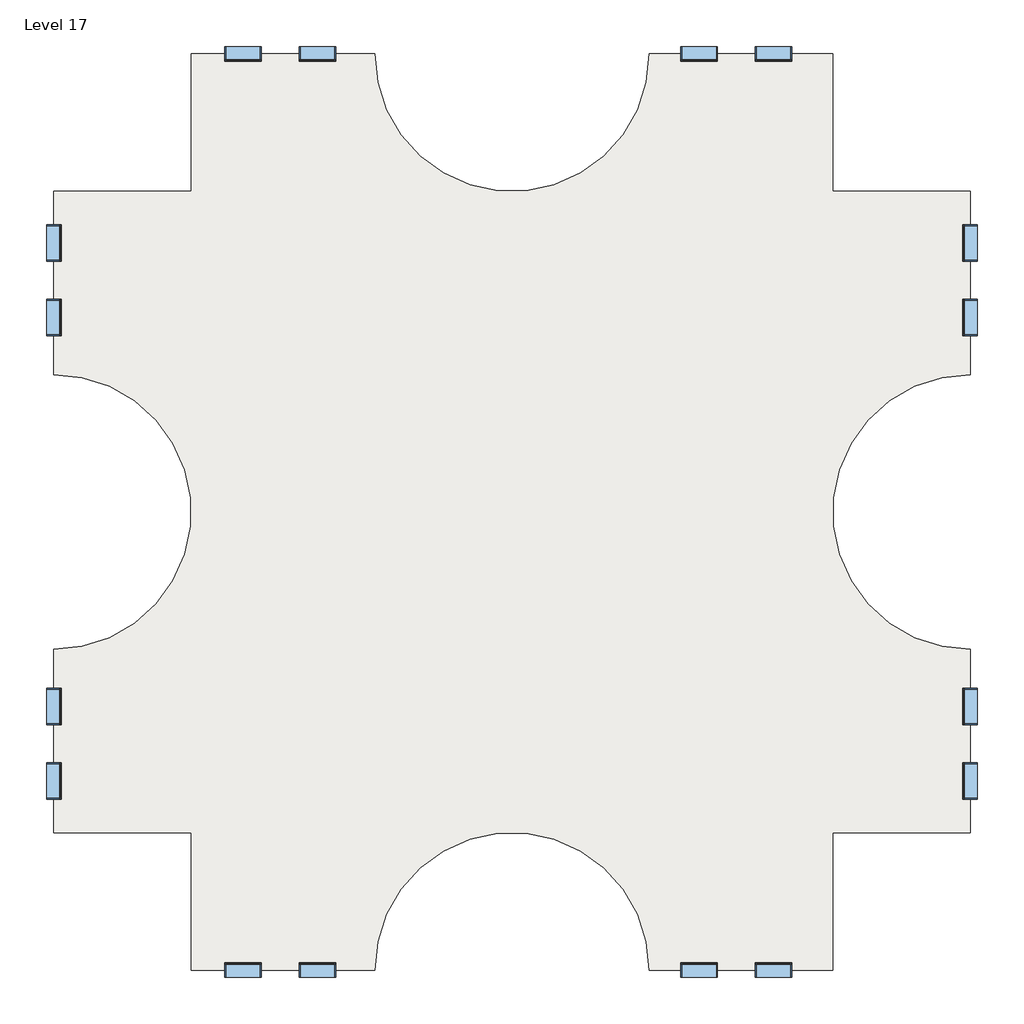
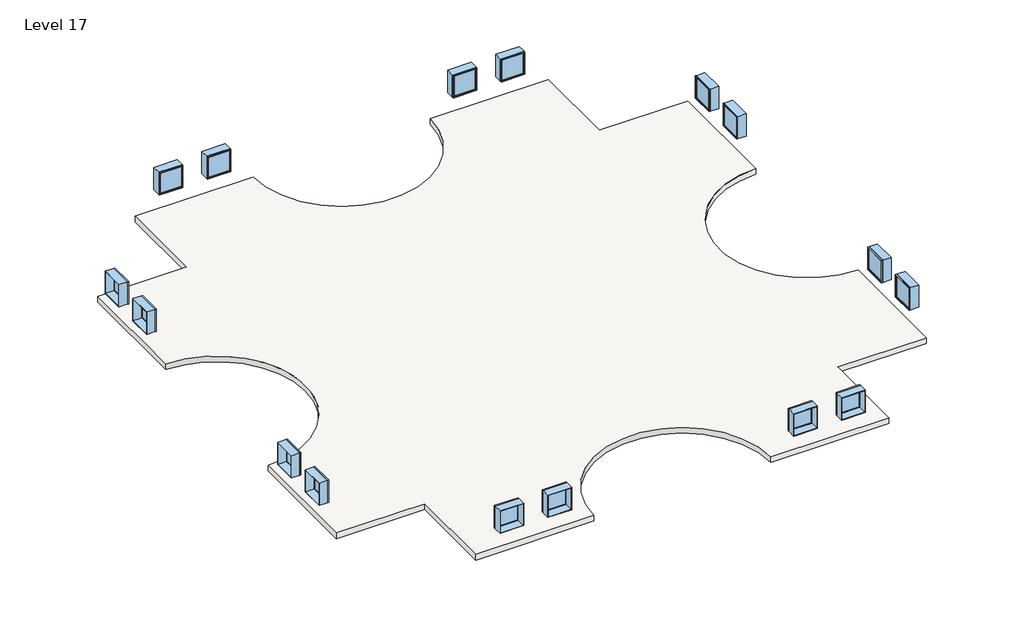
# One storey: 16 windows, 2 slabs.
"""IFC4 building model written with IfcOpenShell, lengths in millimetres."""

import ifcopenshell
import ifcopenshell.guid

model = None  # the IFC model being written
_history = None  # IfcOwnerHistory: only IFC2X3 demands one
_inside = {}  # id of a spatial element -> (the spatial element, [elements in it])
_under = {}  # id of a project, library or spatial element -> (it, [spatial elements below it])
_declared = {}  # id of a project -> (the project, [libraries it declares])
_typed = {}  # id of a type object -> (the type object, [elements of that type])
_made_of = {}  # id of a material, layer set ... -> (it, [elements and type objects made of it])


def new_model(schema):
    """Start an empty IFC model of exactly this schema.

    Asked for "IFC4X3", IfcOpenShell would pick the latest addendum, in which some entities
    have other attributes; the version numbers below select the first issue.
    IFC2X3 requires an IfcOwnerHistory on every rooted entity: one is made here for all.
    """
    global model, _history
    if schema == "IFC4X3":
        model = ifcopenshell.file(schema_version=(4, 3, 0, 0))
    else:
        model = ifcopenshell.file(schema=schema)
    _inside.clear()
    _under.clear()
    _declared.clear()
    _typed.clear()
    _made_of.clear()
    _history = None
    if model.schema == "IFC2X3":
        org = make("IfcOrganization", Name="unknown")
        user = make(
            "IfcPersonAndOrganization",
            ThePerson=make("IfcPerson", FamilyName="unknown"),
            TheOrganization=org,
        )
        app = make(
            "IfcApplication",
            ApplicationDeveloper=org,
            Version="unknown",
            ApplicationFullName="unknown",
            ApplicationIdentifier="unknown",
        )
        _history = make(
            "IfcOwnerHistory",
            OwningUser=user,
            OwningApplication=app,
            ChangeAction="ADDED",
            CreationDate=0,
        )
    return model


def make(cls, **values):
    """One entity of the class cls with the attributes given. An attribute that is None is left unset."""
    return model.create_entity(
        cls, **{name: value for name, value in values.items() if value is not None}
    )


def rooted(cls, **values):
    """An entity with a GlobalId (a new one), such as an element, a storey or a relation."""
    return make(cls, GlobalId=ifcopenshell.guid.new(), OwnerHistory=_history, **values)


def si_unit(unit_type, name, prefix=None):
    """IfcSIUnit, for example si_unit("LENGTHUNIT", "METRE", prefix="MILLI")."""
    return make("IfcSIUnit", UnitType=unit_type, Prefix=prefix, Name=name)


def assignment(units):
    """IfcUnitAssignment: the units of a project."""
    return None if units is None else make("IfcUnitAssignment", Units=units)


def point(xyz):
    """IfcCartesianPoint."""
    return None if xyz is None else make("IfcCartesianPoint", Coordinates=xyz)


def direction(xyz):
    """IfcDirection."""
    return None if xyz is None else make("IfcDirection", DirectionRatios=xyz)


def frame(location, z_axis=None, x_axis=None):
    """IfcAxis2Placement3D, a coordinate frame: its origin and axes. An axis left out is left unset."""
    return make(
        "IfcAxis2Placement3D",
        Location=point(location),
        Axis=direction(z_axis),
        RefDirection=direction(x_axis),
    )


def frame_2d(location, x_axis=None):
    """IfcAxis2Placement2D, a coordinate frame in the plane: its origin and x axis."""
    return make(
        "IfcAxis2Placement2D", Location=point(location), RefDirection=direction(x_axis)
    )


def origin():
    """The frame at (0, 0, 0) with its axes left unset."""
    return frame((0.0, 0.0, 0.0))


def place(relative_to, where):
    """IfcLocalPlacement: puts the frame where relative to a parent placement (None: the world)."""
    return make(
        "IfcLocalPlacement", PlacementRelTo=relative_to, RelativePlacement=where
    )


def context(
    kind, dimensions, precision=None, world=None, true_north=None, identifier=None
):
    """IfcGeometricRepresentationContext, for example the 3D "Model" context."""
    return make(
        "IfcGeometricRepresentationContext",
        ContextIdentifier=identifier,
        ContextType=kind,
        CoordinateSpaceDimension=dimensions,
        Precision=precision,
        WorldCoordinateSystem=world,
        TrueNorth=true_north,
    )


def project(units=None, contexts=None):
    """IfcProject with its units and contexts."""
    return rooted(
        "IfcProject",
        Name="project",
        RepresentationContexts=contexts,
        UnitsInContext=assignment(units),
    )


def spatial(cls, under=None, at=None, **own):
    """A site, building, storey or space (cls), placed at a placement, below another one or the project."""
    s = rooted(cls, ObjectPlacement=at, **own)
    if under is not None:
        _under.setdefault(under.id(), (under, []))[1].append(s)
    return s


def polyline(points):
    """IfcPolyline through the points."""
    return make("IfcPolyline", Points=[point(p) for p in points])


def circle_curve(where, radius):
    """IfcCircle in the frame where."""
    return make("IfcCircle", Position=where, Radius=radius)


def trimmed(basis, trim1, trim2, sense, master):
    """IfcTrimmedCurve: the piece of a basis curve between two trims."""
    return make(
        "IfcTrimmedCurve",
        BasisCurve=basis,
        Trim1=trim1,
        Trim2=trim2,
        SenseAgreement=sense,
        MasterRepresentation=master,
    )


def segment(curve, same_sense, transition):
    """IfcCompositeCurveSegment."""
    return make(
        "IfcCompositeCurveSegment",
        Transition=transition,
        SameSense=same_sense,
        ParentCurve=curve,
    )


def composite_curve(segments, self_intersect=None):
    """IfcCompositeCurve: segments joined end to end."""
    return make("IfcCompositeCurve", Segments=segments, SelfIntersect=self_intersect)


def outline(outer, holes=None, kind="AREA"):
    """IfcArbitraryClosedProfileDef: a profile drawn as a closed curve; with holes, ...WithVoids."""
    if holes is None:
        return make("IfcArbitraryClosedProfileDef", ProfileType=kind, OuterCurve=outer)
    return make(
        "IfcArbitraryProfileDefWithVoids",
        ProfileType=kind,
        OuterCurve=outer,
        InnerCurves=holes,
    )


def extrude(swept, where, along, depth):
    """IfcExtrudedAreaSolid: the profile swept, set in the frame where, extruded along a direction by depth."""
    return make(
        "IfcExtrudedAreaSolid",
        SweptArea=swept,
        Position=where,
        ExtrudedDirection=direction(along),
        Depth=depth,
    )


def shape(context_of_items, identifier, shape_type, items):
    """IfcShapeRepresentation: the items that make up one representation, for example the "Body"."""
    return make(
        "IfcShapeRepresentation",
        ContextOfItems=context_of_items,
        RepresentationIdentifier=identifier,
        RepresentationType=shape_type,
        Items=items,
    )


def source(mapping_origin, context_of_items, identifier, shape_type, items):
    """IfcRepresentationMap: a shape defined once, which mapped items show again and again."""
    return make(
        "IfcRepresentationMap",
        MappingOrigin=mapping_origin,
        MappedRepresentation=shape(context_of_items, identifier, shape_type, items),
    )


def transform(
    local_origin,
    x_axis=None,
    y_axis=None,
    z_axis=None,
    scale=None,
    scale2=None,
    scale3=None,
    uniform=True,
):
    """IfcCartesianTransformationOperator3D, or its non-uniform kind. x_axis, y_axis, z_axis: its Axis1, 2, 3."""
    if uniform:
        return make(
            "IfcCartesianTransformationOperator3D",
            Axis1=direction(x_axis),
            Axis2=direction(y_axis),
            LocalOrigin=point(local_origin),
            Scale=scale,
            Axis3=direction(z_axis),
        )
    return make(
        "IfcCartesianTransformationOperator3DnonUniform",
        Axis1=direction(x_axis),
        Axis2=direction(y_axis),
        LocalOrigin=point(local_origin),
        Scale=scale,
        Axis3=direction(z_axis),
        Scale2=scale2,
        Scale3=scale3,
    )


def mapped(mapping_source, mapping_target):
    """IfcMappedItem: shows the shape of a source again, moved by a transform."""
    return make(
        "IfcMappedItem", MappingSource=mapping_source, MappingTarget=mapping_target
    )


def made_of(thing, what):
    """Note that an element or type object is made of a material, layer set ...; save() writes the relation."""
    if what is not None:
        _made_of.setdefault(what.id(), (what, []))[1].append(thing)
    return thing


def element(
    cls,
    number,
    at=None,
    inside=None,
    cuts=None,
    type_object=None,
    material=None,
    context=None,
    identifier="Body",
    shape_type=None,
    held_by="IfcProductDefinitionShape",
    body=None,
    shapes=None,
    **own,
):
    """One element of the class cls, such as IfcWall. Its Tag is "e" and its number.

    at: its placement. inside: the storey or other place that contains it. cuts: it is an
    opening in that element (IfcRelVoidsElement). A single representation is given by context,
    identifier, shape_type and body (its items); several are given by shapes. held_by: the class
    of the entity that holds the representations. save() writes the other relations.
    """
    e = rooted(cls, Tag="e%d" % number, ObjectPlacement=at, **own)
    if body is not None:
        shapes = [shape(context, identifier, shape_type, body)]
    if shapes is not None:
        e.Representation = make(held_by, Representations=shapes)
    if inside is not None:
        _inside.setdefault(inside.id(), (inside, []))[1].append(e)
    if cuts is not None:
        rooted(
            "IfcRelVoidsElement", RelatingBuildingElement=cuts, RelatedOpeningElement=e
        )
    if type_object is not None:
        _typed.setdefault(type_object.id(), (type_object, []))[1].append(e)
    return made_of(e, material)


def aggregate(whole, parts):
    """IfcRelAggregates: a whole, such as a stair, and the parts it consists of."""
    return rooted("IfcRelAggregates", RelatingObject=whole, RelatedObjects=parts)


def save(model, path):
    """Write the relations noted so far, then the file.

    IfcRelAggregates (storeys below a building ...), IfcRelContainedInSpatialStructure (elements
    in a storey), IfcRelDefinesByType, IfcRelAssociatesMaterial and IfcRelDeclares: one each for
    every whole, place, type object, material and project.
    """
    for whole, parts in _under.values():
        aggregate(whole, parts)
    for where, things in _inside.values():
        rooted(
            "IfcRelContainedInSpatialStructure",
            RelatedElements=things,
            RelatingStructure=where,
        )
    for kind, things in _typed.values():
        rooted("IfcRelDefinesByType", RelatedObjects=things, RelatingType=kind)
    for what, things in _made_of.values():
        rooted("IfcRelAssociatesMaterial", RelatedObjects=things, RelatingMaterial=what)
    for by, libraries in _declared.values():
        rooted("IfcRelDeclares", RelatingContext=by, RelatedDefinitions=libraries)
    model.write(path)


def window_d0035ecf(model_context):
    return source(origin(), model_context, "Body", "SweptSolid", [
        extrude(outline(polyline([(508.0, 200.025), (-584.2, 200.025), (-584.2, 212.725), (508.0, 212.725), (508.0, 200.025)])), frame((0.0, 0.0, 977.9), z_axis=(0.0, 0.0, 1.0), x_axis=(1.0, 0.0, 0.0)), (0.0, 0.0, 1.0), 1092.2),
        extrude(outline(polyline([(2114.55, -628.65), (933.45, -628.65), (933.45, 552.45), (2114.55, 552.45), (2114.55, -628.65)]), holes=[polyline([(2070.1, -584.2), (2070.1, 508.0), (977.9, 508.0), (977.9, -584.2), (2070.1, -584.2)])]), frame((0.0, 184.15, 0.0), z_axis=(0.0, 1.0, 0.0), x_axis=(0.0, 0.0, 1.0)), (0.0, 0.0, 1.0), 44.45),
        extrude(outline(polyline([(2133.6, -647.7), (914.4, -647.7), (914.4, 571.5), (2133.6, 571.5), (2133.6, -647.7)]), holes=[polyline([(2101.85, -615.95), (2101.85, 539.75), (946.15, 539.75), (946.15, -615.95), (2101.85, -615.95)])]), frame((0.0, -247.65, 0.0), z_axis=(0.0, 1.0, 0.0), x_axis=(0.0, 0.0, 1.0)), (0.0, 0.0, 1.0), 431.8),
        extrude(outline(polyline([(2133.6, 571.5), (2133.6, -647.7), (914.4, -647.7), (914.4, 571.5), (2133.6, 571.5)]), holes=[polyline([(2114.55, 552.45), (933.45, 552.45), (933.45, -628.65), (2114.55, -628.65), (2114.55, 552.45)])]), frame((0.0, 184.15, 0.0), z_axis=(0.0, 1.0, 0.0), x_axis=(0.0, 0.0, 1.0)), (0.0, 0.0, 1.0), 63.5),
    ])


def window_d434eb62(model_context):
    return source(origin(), model_context, "Body", "SweptSolid", [
        extrude(outline(polyline([(508.0, -200.025), (508.0, -212.725), (-584.2, -212.725), (-584.2, -200.025), (508.0, -200.025)])), frame((0.0, 0.0, 977.9), z_axis=(0.0, 0.0, 1.0), x_axis=(1.0, 0.0, 0.0)), (0.0, 0.0, 1.0), 1092.2),
        extrude(outline(polyline([(2114.55, -628.65), (933.45, -628.65), (933.45, 552.45), (2114.55, 552.45), (2114.55, -628.65)]), holes=[polyline([(2070.1, -584.2), (2070.1, 508.0), (977.9, 508.0), (977.9, -584.2), (2070.1, -584.2)])]), frame((0.0, -228.6, 0.0), z_axis=(0.0, 1.0, 0.0), x_axis=(0.0, 0.0, 1.0)), (0.0, 0.0, 1.0), 44.45),
        extrude(outline(polyline([(2133.6, -647.7), (914.4, -647.7), (914.4, 571.5), (2133.6, 571.5), (2133.6, -647.7)]), holes=[polyline([(2101.85, -615.95), (2101.85, 539.75), (946.15, 539.75), (946.15, -615.95), (2101.85, -615.95)])]), frame((0.0, -184.15, 0.0), z_axis=(0.0, 1.0, 0.0), x_axis=(0.0, 0.0, 1.0)), (0.0, 0.0, 1.0), 431.8),
        extrude(outline(polyline([(2133.6, 571.5), (2133.6, -647.7), (914.4, -647.7), (914.4, 571.5), (2133.6, 571.5)]), holes=[polyline([(2114.55, 552.45), (933.45, 552.45), (933.45, -628.65), (2114.55, -628.65), (2114.55, 552.45)])]), frame((0.0, -247.65, 0.0), z_axis=(0.0, 1.0, 0.0), x_axis=(0.0, 0.0, 1.0)), (0.0, 0.0, 1.0), 63.5),
    ])


model = new_model("IFC4")

# Units and contexts
model_context = context("Model", 3, world=origin())
ifc_project = project(units=[si_unit("LENGTHUNIT", "METRE", prefix="MILLI")], contexts=[model_context])

# Site, building, storey
site = spatial("IfcSite", under=ifc_project)
building = spatial("IfcBuilding", under=site)
storey = spatial("IfcBuildingStorey", under=building, Name="Level 17", Elevation=48768.0)

# Slabs
placement = place(None, origin())
element("IfcSlab", 1, ObjectType="Generic - 12\"", at=placement, inside=storey, context=model_context, shape_type="SweptSolid", body=[
    extrude(outline(composite_curve([segment(polyline([(-7150.3629456, 4479.6634547), (-7150.3629456, 9051.6634547), (-1054.3629456, 9051.6634547)]), True, "CONTINUOUS"), segment(trimmed(circle_curve(frame_2d((3517.6370544, 9051.6634547)), 4572.0), [point((-1054.3629456, 9051.6634547))], [point((8089.6370544, 9051.6634547))], True, "CARTESIAN"), True, "CONTINUOUS"), segment(polyline([(8089.6370544, 9051.6634547), (14185.6370544, 9051.6634547), (14185.6370544, 4479.6634547), (18757.6370544, 4479.6634547), (18757.6370544, -1616.3365453)]), True, "CONTINUOUS"), segment(trimmed(circle_curve(frame_2d((18757.6370544, -6188.3365453)), 4572.0), [point((18757.6370544, -1616.3365453))], [point((18757.6370544, -10760.3365453))], True, "CARTESIAN"), True, "CONTINUOUS"), segment(polyline([(18757.6370544, -10760.3365453), (18757.6370544, -16856.3365453), (14185.6370544, -16856.3365453), (14185.6370544, -21428.3365453), (8089.6370544, -21428.3365453)]), True, "CONTINUOUS"), segment(trimmed(circle_curve(frame_2d((3517.6370544, -21428.3365453)), 4572.0), [point((8089.6370544, -21428.3365453))], [point((-1054.3629456, -21428.3365453))], True, "CARTESIAN"), True, "CONTINUOUS"), segment(polyline([(-1054.3629456, -21428.3365453), (-7150.3629456, -21428.3365453), (-7150.3629456, -16856.3365453), (-11722.3629456, -16856.3365453), (-11722.3629456, -10760.3365453)]), True, "CONTINUOUS"), segment(trimmed(circle_curve(frame_2d((-11722.3629456, -6188.3365453)), 4572.0), [point((-11722.3629456, -10760.3365453))], [point((-11722.3629456, -1616.3365453))], True, "CARTESIAN"), True, "CONTINUOUS"), segment(polyline([(-11722.3629456, -1616.3365453), (-11722.3629456, 4479.6634547), (-7150.3629456, 4479.6634547)]), True, "CONTINUOUS")], self_intersect=False)), frame((0.0, 0.0, 48463.2), z_axis=(0.0, 0.0, 1.0), x_axis=(1.0, 0.0, 0.0)), (0.0, 0.0, 1.0), 304.8),
])
element("IfcSlab", 2, ObjectType="Generic - 12\"", at=placement, inside=storey, context=model_context, shape_type="SweptSolid", body=[
    extrude(outline(composite_curve([segment(polyline([(-7150.3629456, 4479.6634547), (-7150.3629456, 9051.6634547), (-1054.3629456, 9051.6634547)]), True, "CONTINUOUS"), segment(trimmed(circle_curve(frame_2d((3517.6370544, 9051.6634547)), 4572.0), [point((-1054.3629456, 9051.6634547))], [point((8089.6370544, 9051.6634547))], True, "CARTESIAN"), True, "CONTINUOUS"), segment(polyline([(8089.6370544, 9051.6634547), (14185.6370544, 9051.6634547), (14185.6370544, 4479.6634547), (18757.6370544, 4479.6634547), (18757.6370544, -1616.3365453)]), True, "CONTINUOUS"), segment(trimmed(circle_curve(frame_2d((18757.6370544, -6188.3365453)), 4572.0), [point((18757.6370544, -1616.3365453))], [point((18757.6370544, -10760.3365453))], True, "CARTESIAN"), True, "CONTINUOUS"), segment(polyline([(18757.6370544, -10760.3365453), (18757.6370544, -16856.3365453), (14185.6370544, -16856.3365453), (14185.6370544, -21428.3365453), (8089.6370544, -21428.3365453)]), True, "CONTINUOUS"), segment(trimmed(circle_curve(frame_2d((3517.6370544, -21428.3365453)), 4572.0), [point((8089.6370544, -21428.3365453))], [point((-1054.3629456, -21428.3365453))], True, "CARTESIAN"), True, "CONTINUOUS"), segment(polyline([(-1054.3629456, -21428.3365453), (-7150.3629456, -21428.3365453), (-7150.3629456, -16856.3365453), (-11722.3629456, -16856.3365453), (-11722.3629456, -10760.3365453)]), True, "CONTINUOUS"), segment(trimmed(circle_curve(frame_2d((-11722.3629456, -6188.3365453)), 4572.0), [point((-11722.3629456, -10760.3365453))], [point((-11722.3629456, -1616.3365453))], True, "CARTESIAN"), True, "CONTINUOUS"), segment(polyline([(-11722.3629456, -1616.3365453), (-11722.3629456, 4479.6634547), (-7150.3629456, 4479.6634547)]), True, "CONTINUOUS")], self_intersect=False)), frame((0.0, 0.0, 48463.2), z_axis=(0.0, 0.0, 1.0), x_axis=(1.0, 0.0, 0.0)), (0.0, 0.0, 1.0), 304.8),
])

# Windows
window_shape = window_d0035ecf(model_context)
element("IfcWindow", 3, ObjectType="Fixed : 48\" x 48\"", at=placement, inside=storey, context=model_context, shape_type="MappedRepresentation", body=[
    mapped(window_shape, transform((-11719.1879456, 247.3884547, 48768.0), x_axis=(0.0, -1.0, 0.0), y_axis=(1.0, 0.0, 0.0), z_axis=(0.0, 0.0, 1.0))),
])
element("IfcWindow", 4, ObjectType="Fixed : 48\" x 48\"", at=placement, inside=storey, context=model_context, shape_type="MappedRepresentation", body=[
    mapped(window_shape, transform((-5469.1993281, 9048.4884547, 48768.0), x_axis=(-1.0, 0.0, 0.0), y_axis=(0.0, -1.0, 0.0), z_axis=(0.0, 0.0, 1.0))),
])
element("IfcWindow", 5, ObjectType="Fixed : 48\" x 48\"", at=placement, inside=storey, context=model_context, shape_type="MappedRepresentation", body=[
    mapped(window_shape, transform((-11719.1879456, -15175.1729277, 48768.0), x_axis=(0.0, -1.0, 0.0), y_axis=(1.0, 0.0, 0.0), z_axis=(0.0, 0.0, 1.0))),
])
element("IfcWindow", 6, ObjectType="Fixed : 48\" x 48\"", at=placement, inside=storey, context=model_context, shape_type="MappedRepresentation", body=[
    mapped(window_shape, transform((-2918.0879456, -21425.1615453, 48768.0), x_axis=(1.0, 0.0, 0.0), y_axis=(0.0, 1.0, 0.0), z_axis=(0.0, 0.0, 1.0))),
])
element("IfcWindow", 7, ObjectType="Fixed : 48\" x 48\"", at=placement, inside=storey, context=model_context, shape_type="MappedRepresentation", body=[
    mapped(window_shape, transform((18754.4620544, 2798.4998372, 48768.0), x_axis=(0.0, 1.0, 0.0), y_axis=(-1.0, 0.0, 0.0), z_axis=(0.0, 0.0, 1.0))),
])
element("IfcWindow", 8, ObjectType="Fixed : 48\" x 48\"", at=placement, inside=storey, context=model_context, shape_type="MappedRepresentation", body=[
    mapped(window_shape, transform((9705.7120544, 9048.4884547, 48768.0), x_axis=(-1.0, 0.0, 0.0), y_axis=(0.0, -1.0, 0.0), z_axis=(0.0, 0.0, 1.0))),
])
element("IfcWindow", 9, ObjectType="Fixed : 48\" x 48\"", at=placement, inside=storey, context=model_context, shape_type="MappedRepresentation", body=[
    mapped(window_shape, transform((18754.4620544, -12624.0615453, 48768.0), x_axis=(0.0, 1.0, 0.0), y_axis=(-1.0, 0.0, 0.0), z_axis=(0.0, 0.0, 1.0))),
])
element("IfcWindow", 10, ObjectType="Fixed : 48\" x 48\"", at=placement, inside=storey, context=model_context, shape_type="MappedRepresentation", body=[
    mapped(window_shape, transform((12256.8234368, -21425.1615453, 48768.0), x_axis=(1.0, 0.0, 0.0), y_axis=(0.0, 1.0, 0.0), z_axis=(0.0, 0.0, 1.0))),
])
window_2_shape = window_d434eb62(model_context)
element("IfcWindow", 11, ObjectType="Fixed : 48\" x 48\"", at=placement, inside=storey, context=model_context, shape_type="MappedRepresentation", body=[
    mapped(window_2_shape, transform((-11719.1879456, 2798.4998372, 48768.0), x_axis=(0.0, 1.0, 0.0), y_axis=(-1.0, 0.0, 0.0), z_axis=(0.0, 0.0, 1.0))),
])
element("IfcWindow", 12, ObjectType="Fixed : 48\" x 48\"", at=placement, inside=storey, context=model_context, shape_type="MappedRepresentation", body=[
    mapped(window_2_shape, transform((-2918.0879456, 9048.4884547, 48768.0), x_axis=(1.0, 0.0, 0.0), y_axis=(0.0, 1.0, 0.0), z_axis=(0.0, 0.0, 1.0))),
])
element("IfcWindow", 13, ObjectType="Fixed : 48\" x 48\"", at=placement, inside=storey, context=model_context, shape_type="MappedRepresentation", body=[
    mapped(window_2_shape, transform((-11719.1879456, -12624.0615453, 48768.0), x_axis=(0.0, 1.0, 0.0), y_axis=(-1.0, 0.0, 0.0), z_axis=(0.0, 0.0, 1.0))),
])
element("IfcWindow", 14, ObjectType="Fixed : 48\" x 48\"", at=placement, inside=storey, context=model_context, shape_type="MappedRepresentation", body=[
    mapped(window_2_shape, transform((-5469.1993281, -21425.1615453, 48768.0), x_axis=(-1.0, 0.0, 0.0), y_axis=(0.0, -1.0, 0.0), z_axis=(0.0, 0.0, 1.0))),
])
element("IfcWindow", 15, ObjectType="Fixed : 48\" x 48\"", at=placement, inside=storey, context=model_context, shape_type="MappedRepresentation", body=[
    mapped(window_2_shape, transform((18754.4620544, 247.3884547, 48768.0), x_axis=(0.0, -1.0, 0.0), y_axis=(1.0, 0.0, 0.0), z_axis=(0.0, 0.0, 1.0))),
])
element("IfcWindow", 16, ObjectType="Fixed : 48\" x 48\"", at=placement, inside=storey, context=model_context, shape_type="MappedRepresentation", body=[
    mapped(window_2_shape, transform((12256.8234368, 9048.4884547, 48768.0), x_axis=(1.0, 0.0, 0.0), y_axis=(0.0, 1.0, 0.0), z_axis=(0.0, 0.0, 1.0))),
])
element("IfcWindow", 17, ObjectType="Fixed : 48\" x 48\"", at=placement, inside=storey, context=model_context, shape_type="MappedRepresentation", body=[
    mapped(window_2_shape, transform((18754.4620544, -15175.1729277, 48768.0), x_axis=(0.0, -1.0, 0.0), y_axis=(1.0, 0.0, 0.0), z_axis=(0.0, 0.0, 1.0))),
])
element("IfcWindow", 18, ObjectType="Fixed : 48\" x 48\"", at=placement, inside=storey, context=model_context, shape_type="MappedRepresentation", body=[
    mapped(window_2_shape, transform((9705.7120544, -21425.1615453, 48768.0), x_axis=(-1.0, 0.0, 0.0), y_axis=(0.0, -1.0, 0.0), z_axis=(0.0, 0.0, 1.0))),
])

save(model, "model.ifc")
